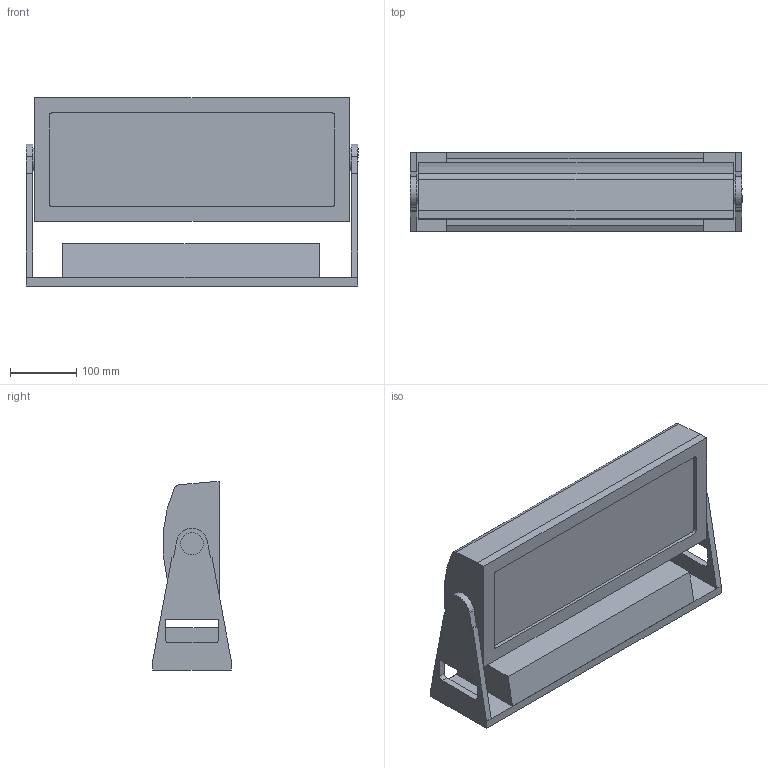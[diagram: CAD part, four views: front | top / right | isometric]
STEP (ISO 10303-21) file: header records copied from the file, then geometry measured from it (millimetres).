
FILE_DESCRIPTION(/* description */ (''),/* implementation_level */ '2;1');
FILE_NAME(/* name */ 'ILUMIPANEL ML2_0.stp',/* time_stamp */ '2025-06-26T10:10:14-04:00',/* author */ ('chenry'),/* organization */ (''),/* preprocessor_version */ 'ST-DEVELOPER v20',/* originating_system */ 'Autodesk Inventor 2024',/* authorisation */ '');
FILE_SCHEMA (('AUTOMOTIVE_DESIGN { 1 0 10303 214 3 1 1 }'));
Length unit declared in the file: millimetre
Products named in the file (3): AM1362_0001_ASM_ASM; Base0; Head0
Assembly tree (2 placements, depth 2):
  AM1362_0001_ASM_ASM
    Base0
    Head0
Bounding box: 501.02 x 119 x 283.91 mm (x, y, z)
Volume: 9671422.1 mm3; surface area: 515163 mm2
Topology: 2 solids, 2 shells, 70 faces, 185 edges, 122 vertices
Faces by surface type: plane 53, cylinder 17
Full cylindrical faces by diameter (mm): 34 x4
Entity records: 2292 total; most frequent: CARTESIAN_POINT 382, ORIENTED_EDGE 370, DIRECTION 369, EDGE_CURVE 185, LINE 151, VECTOR 151, VERTEX_POINT 122, AXIS2_PLACEMENT_3D 109
